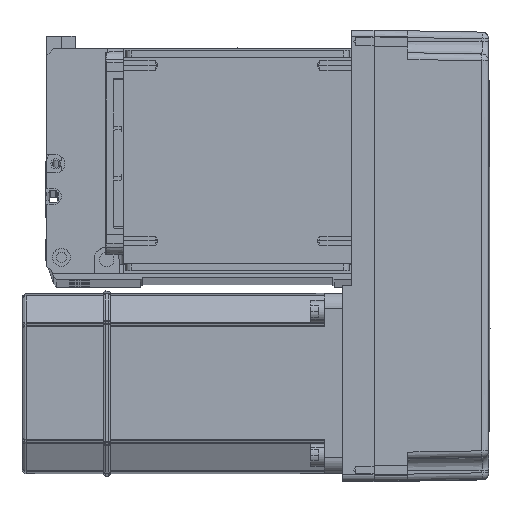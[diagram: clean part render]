
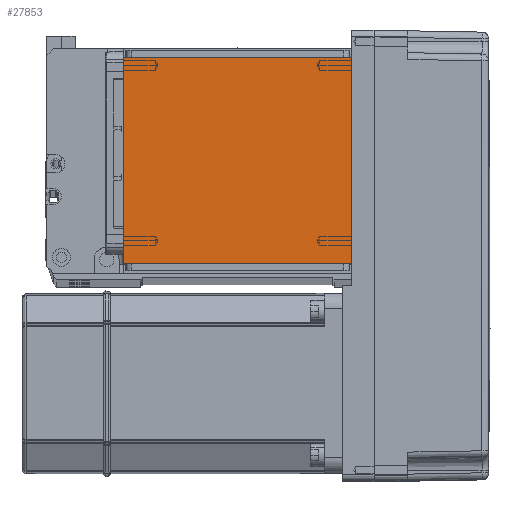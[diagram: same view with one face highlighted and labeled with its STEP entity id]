
A CAD part, top view. The second image highlights one B-rep face of the part: STEP entity #27853.
In plain terms, the highlighted planar face has unit normal (0, 0, 1).
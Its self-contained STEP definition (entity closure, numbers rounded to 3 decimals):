
#851 = LINE ( 'NONE', #57146, #8196 ) ;
#1288 = VECTOR ( 'NONE', #19330, 1000. ) ;
#1489 = AXIS2_PLACEMENT_3D ( 'NONE', #7094, #59267, #35748 ) ;
#2137 = ORIENTED_EDGE ( 'NONE', *, *, #14923, .F. ) ;
#6122 = ORIENTED_EDGE ( 'NONE', *, *, #58267, .F. ) ;
#6904 = VERTEX_POINT ( 'NONE', #29211 ) ;
#7094 = CARTESIAN_POINT ( 'NONE',  ( 0., 0., 115. ) ) ;
#8196 = VECTOR ( 'NONE', #28919, 1000. ) ;
#11162 = VECTOR ( 'NONE', #12131, 1000. ) ;
#11258 = FACE_OUTER_BOUND ( 'NONE', #35118, .T. ) ;
#12131 = DIRECTION ( 'NONE',  ( -1., 0., 0. ) ) ;
#14911 = LINE ( 'NONE', #40741, #11162 ) ;
#14923 = EDGE_CURVE ( 'NONE', #29656, #32475, #14911, .T. ) ;
#18559 = EDGE_CURVE ( 'NONE', #6904, #32475, #48416, .T. ) ;
#19019 = ORIENTED_EDGE ( 'NONE', *, *, #37611, .T. ) ;
#19330 = DIRECTION ( 'NONE',  ( 0., -1., 0. ) ) ;
#20124 = CARTESIAN_POINT ( 'NONE',  ( -70.004, 111.5, 115. ) ) ;
#24029 = LINE ( 'NONE', #20124, #40899 ) ;
#25804 = CARTESIAN_POINT ( 'NONE',  ( -50.5, 20., 115. ) ) ;
#27853 = ADVANCED_FACE ( 'NONE', ( #11258 ), #44572, .T. ) ;
#28919 = DIRECTION ( 'NONE',  ( 0., 1., 0. ) ) ;
#29211 = CARTESIAN_POINT ( 'NONE',  ( -50.5, 111.5, 115. ) ) ;
#29656 = VERTEX_POINT ( 'NONE', #38672 ) ;
#29832 = DIRECTION ( 'NONE',  ( 1., 0., 0. ) ) ;
#30801 = CARTESIAN_POINT ( 'NONE',  ( 50.5, 111.5, 115. ) ) ;
#32475 = VERTEX_POINT ( 'NONE', #25804 ) ;
#35118 = EDGE_LOOP ( 'NONE', ( #6122, #46361, #2137, #19019 ) ) ;
#35748 = DIRECTION ( 'NONE',  ( 1., 0., 0. ) ) ;
#37611 = EDGE_CURVE ( 'NONE', #29656, #41272, #851, .T. ) ;
#38672 = CARTESIAN_POINT ( 'NONE',  ( 50.5, 20., 115. ) ) ;
#40741 = CARTESIAN_POINT ( 'NONE',  ( -70.004, 20., 115. ) ) ;
#40899 = VECTOR ( 'NONE', #29832, 1000. ) ;
#41272 = VERTEX_POINT ( 'NONE', #30801 ) ;
#44572 = PLANE ( 'NONE',  #1489 ) ;
#46361 = ORIENTED_EDGE ( 'NONE', *, *, #18559, .T. ) ;
#48416 = LINE ( 'NONE', #57282, #1288 ) ;
#57146 = CARTESIAN_POINT ( 'NONE',  ( 50.5, 122., 115. ) ) ;
#57282 = CARTESIAN_POINT ( 'NONE',  ( -50.5, 122., 115. ) ) ;
#58267 = EDGE_CURVE ( 'NONE', #6904, #41272, #24029, .T. ) ;
#59267 = DIRECTION ( 'NONE',  ( 0., 0., 1. ) ) ;
